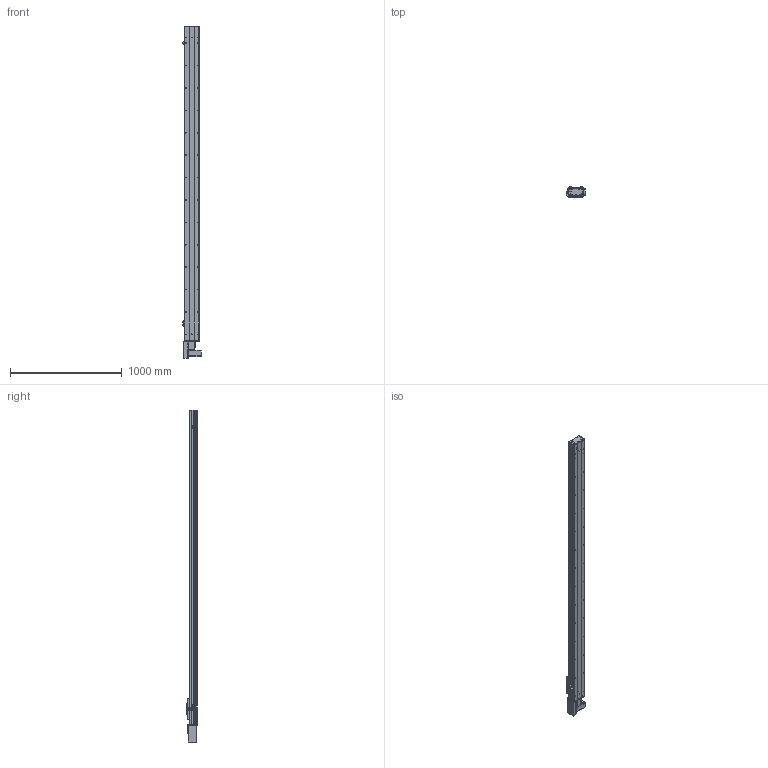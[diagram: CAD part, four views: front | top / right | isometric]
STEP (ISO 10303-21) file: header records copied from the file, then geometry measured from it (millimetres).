
FILE_DESCRIPTION (( 'STEP AP203' ), '1' );
FILE_NAME ('Y135CB-D90-S2500-BR-P400W.STEP', '2020-02-18T03:06:27', ( '微软用户' ), ( '微软中国' ), 'SwSTEP 2.0', 'SolidWorks 2017', '' );
FILE_SCHEMA (( 'CONFIG_CONTROL_DESIGN' ));
Length unit declared in the file: millimetre
Products named in the file (18): Y10B--々湍喘謫眊--666; san松下电机400不带刹车----; Y135CB-耜裔; Y135CB-D90-S2500-BR-P400W; 5CB --掛极耜裔啣-; 135CB---遴掛极.-; C-詩湍揤踡え-陔; 35CB---喘謫眊楊擘啣; 135CB--詩湍-CE; Y10B-耜蚾蟀諉啣----; Y100-135俋离換覜ん--; Y俋欶BR----; Y135C-陔俋离換覜結え-; 0B-埴倛裔啣; 5C--俋欶; 0B-源倛裔啣; C-雄赽釱--; 0B-萇儂楊擘啣
Assembly tree (21 placements, depth 2):
  Y135CB-D90-S2500-BR-P400W
    Y135CB-耜裔
    135CB---遴掛极.-
    35CB---喘謫眊楊擘啣
    Y10B-耜蚾蟀諉啣----
    Y俋欶BR----
    0B-埴倛裔啣
    0B-源倛裔啣
    0B-萇儂楊擘啣
    san松下电机400不带刹车----
    5CB --掛极耜裔啣-  x2
    C-詩湍揤踡え-陔  x2
    135CB--詩湍-CE
    Y100-135俋离換覜ん--  x3
    Y135C-陔俋离換覜結え-
    5C--俋欶
    C-雄赽釱--
    Y10B--々湍喘謫眊--666
Bounding box: 167.5 x 91 x 2964.5 mm (x, y, z)
Volume: 8282555.3 mm3; surface area: 3281160.7 mm2
Topology: 21 solids, 21 shells, 977 faces, 2671 edges, 1770 vertices
Faces by surface type: cylinder 503, plane 458, cone 16
Entity records: 30957 total; most frequent: CARTESIAN_POINT 5164, DIRECTION 5143, ORIENTED_EDGE 4818, EDGE_CURVE 2409, AXIS2_PLACEMENT_3D 1885, VERTEX_POINT 1598, VECTOR 1373, LINE 1373
